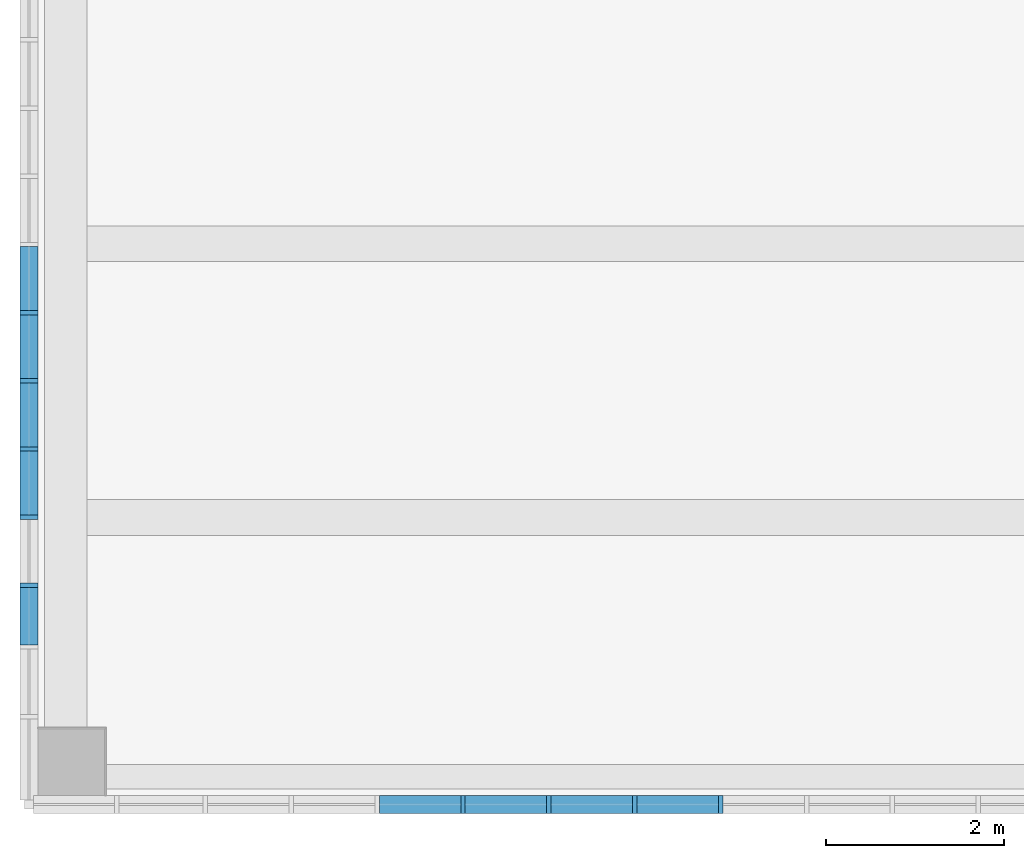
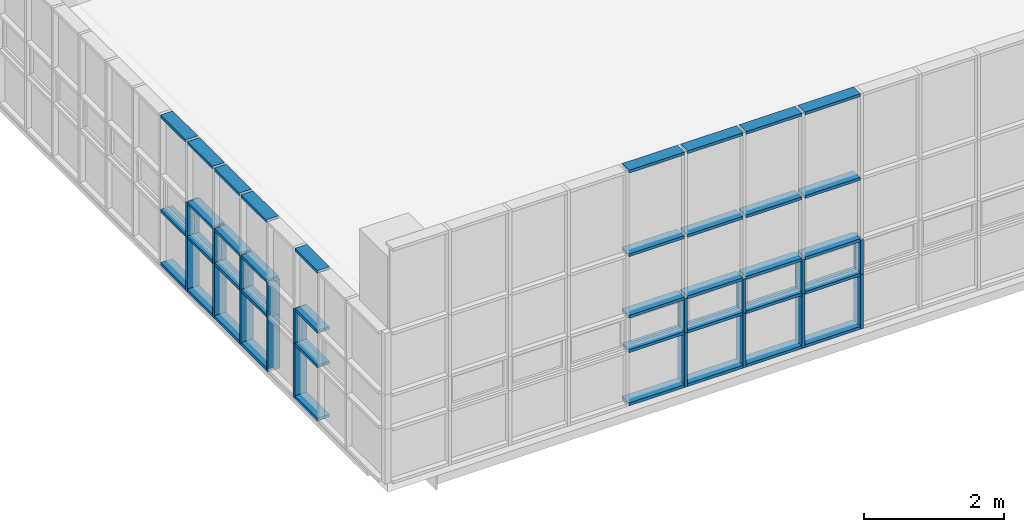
# One storey, part 12 of 76: 57 members, 2 elements without a shape of their own.
"""IFC2X3 building model written with IfcOpenShell, lengths in millimetres."""

import ifcopenshell
import ifcopenshell.guid

model = None  # the IFC model being written
_history = None  # IfcOwnerHistory: only IFC2X3 demands one
_inside = {}  # id of a spatial element -> (the spatial element, [elements in it])
_under = {}  # id of a project, library or spatial element -> (it, [spatial elements below it])
_declared = {}  # id of a project -> (the project, [libraries it declares])
_typed = {}  # id of a type object -> (the type object, [elements of that type])
_made_of = {}  # id of a material, layer set ... -> (it, [elements and type objects made of it])


def new_model(schema):
    """Start an empty IFC model of exactly this schema.

    Asked for "IFC4X3", IfcOpenShell would pick the latest addendum, in which some entities
    have other attributes; the version numbers below select the first issue.
    IFC2X3 requires an IfcOwnerHistory on every rooted entity: one is made here for all.
    """
    global model, _history
    if schema == "IFC4X3":
        model = ifcopenshell.file(schema_version=(4, 3, 0, 0))
    else:
        model = ifcopenshell.file(schema=schema)
    _inside.clear()
    _under.clear()
    _declared.clear()
    _typed.clear()
    _made_of.clear()
    _history = None
    if model.schema == "IFC2X3":
        org = make("IfcOrganization", Name="unknown")
        user = make(
            "IfcPersonAndOrganization",
            ThePerson=make("IfcPerson", FamilyName="unknown"),
            TheOrganization=org,
        )
        app = make(
            "IfcApplication",
            ApplicationDeveloper=org,
            Version="unknown",
            ApplicationFullName="unknown",
            ApplicationIdentifier="unknown",
        )
        _history = make(
            "IfcOwnerHistory",
            OwningUser=user,
            OwningApplication=app,
            ChangeAction="ADDED",
            CreationDate=0,
        )
    return model


def make(cls, **values):
    """One entity of the class cls with the attributes given. An attribute that is None is left unset."""
    return model.create_entity(
        cls, **{name: value for name, value in values.items() if value is not None}
    )


def entity(cls, *values):
    """Any entity or typed value of the class cls, its attributes in the order of the schema. None: left unset."""
    e = model.create_entity(cls)
    for i, value in enumerate(values):
        if value is not None:
            e[i] = value
    return e


def rooted(cls, **values):
    """An entity with a GlobalId (a new one), such as an element, a storey or a relation."""
    return make(cls, GlobalId=ifcopenshell.guid.new(), OwnerHistory=_history, **values)


def si_unit(unit_type, name, prefix=None):
    """IfcSIUnit, for example si_unit("LENGTHUNIT", "METRE", prefix="MILLI")."""
    return make("IfcSIUnit", UnitType=unit_type, Prefix=prefix, Name=name)


def converted_unit(unit_type, name, factor, base, dimensions=None, offset=None):
    """IfcConversionBasedUnit, such as the inch: factor (a typed value) times the base unit."""
    return make(
        "IfcConversionBasedUnit"
        if offset is None
        else "IfcConversionBasedUnitWithOffset",
        ConversionOffset=offset,
        Dimensions=None
        if dimensions is None
        else entity("IfcDimensionalExponents", *dimensions),
        UnitType=unit_type,
        Name=name,
        ConversionFactor=make(
            "IfcMeasureWithUnit", ValueComponent=factor, UnitComponent=base
        ),
    )


def derived_unit(unit_type, elements):
    """IfcDerivedUnit: a product of units, each with its exponent."""
    return make(
        "IfcDerivedUnit",
        Elements=[
            make("IfcDerivedUnitElement", Unit=unit, Exponent=power)
            for unit, power in elements
        ],
        UnitType=unit_type,
    )


def assignment(units):
    """IfcUnitAssignment: the units of a project."""
    return None if units is None else make("IfcUnitAssignment", Units=units)


def point(xyz):
    """IfcCartesianPoint."""
    return None if xyz is None else make("IfcCartesianPoint", Coordinates=xyz)


def direction(xyz):
    """IfcDirection."""
    return None if xyz is None else make("IfcDirection", DirectionRatios=xyz)


def frame(location, z_axis=None, x_axis=None):
    """IfcAxis2Placement3D, a coordinate frame: its origin and axes. An axis left out is left unset."""
    return make(
        "IfcAxis2Placement3D",
        Location=point(location),
        Axis=direction(z_axis),
        RefDirection=direction(x_axis),
    )


def frame_2d(location, x_axis=None):
    """IfcAxis2Placement2D, a coordinate frame in the plane: its origin and x axis."""
    return make(
        "IfcAxis2Placement2D", Location=point(location), RefDirection=direction(x_axis)
    )


def origin():
    """The frame at (0, 0, 0) with its axes left unset."""
    return frame((0.0, 0.0, 0.0))


def origin_2d_with_axis():
    """The frame at (0, 0) in the plane with the x axis (1, 0) written out."""
    return frame_2d((0.0, 0.0), x_axis=(1.0, 0.0))


def place(relative_to, where):
    """IfcLocalPlacement: puts the frame where relative to a parent placement (None: the world)."""
    return make(
        "IfcLocalPlacement", PlacementRelTo=relative_to, RelativePlacement=where
    )


def context(
    kind, dimensions, precision=None, world=None, true_north=None, identifier=None
):
    """IfcGeometricRepresentationContext, for example the 3D "Model" context."""
    return make(
        "IfcGeometricRepresentationContext",
        ContextIdentifier=identifier,
        ContextType=kind,
        CoordinateSpaceDimension=dimensions,
        Precision=precision,
        WorldCoordinateSystem=world,
        TrueNorth=true_north,
    )


def subcontext(parent, identifier, kind, view, scale=None):
    """IfcGeometricRepresentationSubContext, for example "Body" below "Model"."""
    return make(
        "IfcGeometricRepresentationSubContext",
        ContextIdentifier=identifier,
        ContextType=kind,
        ParentContext=parent,
        TargetScale=scale,
        TargetView=view,
    )


def project(units=None, contexts=None):
    """IfcProject with its units and contexts."""
    return rooted(
        "IfcProject",
        Name="project",
        RepresentationContexts=contexts,
        UnitsInContext=assignment(units),
    )


def spatial(cls, under=None, at=None, **own):
    """A site, building, storey or space (cls), placed at a placement, below another one or the project."""
    s = rooted(cls, ObjectPlacement=at, **own)
    if under is not None:
        _under.setdefault(under.id(), (under, []))[1].append(s)
    return s


def profile(cls, at=None, kind="AREA", **sizes):
    """A parametric profile (cls). Its sizes go by their IFC names, for example OverallWidth=200.0."""
    return make(cls, ProfileType=kind, Position=at, **sizes)


def rectangle(**sizes):
    """IfcRectangleProfileDef."""
    return profile("IfcRectangleProfileDef", **sizes)


def extrude(swept, where, along, depth):
    """IfcExtrudedAreaSolid: the profile swept, set in the frame where, extruded along a direction by depth."""
    return make(
        "IfcExtrudedAreaSolid",
        SweptArea=swept,
        Position=where,
        ExtrudedDirection=direction(along),
        Depth=depth,
    )


def shape(context_of_items, identifier, shape_type, items):
    """IfcShapeRepresentation: the items that make up one representation, for example the "Body"."""
    return make(
        "IfcShapeRepresentation",
        ContextOfItems=context_of_items,
        RepresentationIdentifier=identifier,
        RepresentationType=shape_type,
        Items=items,
    )


def source(mapping_origin, context_of_items, identifier, shape_type, items):
    """IfcRepresentationMap: a shape defined once, which mapped items show again and again."""
    return make(
        "IfcRepresentationMap",
        MappingOrigin=mapping_origin,
        MappedRepresentation=shape(context_of_items, identifier, shape_type, items),
    )


def transform(
    local_origin,
    x_axis=None,
    y_axis=None,
    z_axis=None,
    scale=None,
    scale2=None,
    scale3=None,
    uniform=True,
):
    """IfcCartesianTransformationOperator3D, or its non-uniform kind. x_axis, y_axis, z_axis: its Axis1, 2, 3."""
    if uniform:
        return make(
            "IfcCartesianTransformationOperator3D",
            Axis1=direction(x_axis),
            Axis2=direction(y_axis),
            LocalOrigin=point(local_origin),
            Scale=scale,
            Axis3=direction(z_axis),
        )
    return make(
        "IfcCartesianTransformationOperator3DnonUniform",
        Axis1=direction(x_axis),
        Axis2=direction(y_axis),
        LocalOrigin=point(local_origin),
        Scale=scale,
        Axis3=direction(z_axis),
        Scale2=scale2,
        Scale3=scale3,
    )


def mapped(mapping_source, mapping_target):
    """IfcMappedItem: shows the shape of a source again, moved by a transform."""
    return make(
        "IfcMappedItem", MappingSource=mapping_source, MappingTarget=mapping_target
    )


def material(Name=None, Category=None):
    """IfcMaterial."""
    return make("IfcMaterial", Name=Name, Category=Category)


def made_of(thing, what):
    """Note that an element or type object is made of a material, layer set ...; save() writes the relation."""
    if what is not None:
        _made_of.setdefault(what.id(), (what, []))[1].append(thing)
    return thing


def type_object(cls, material=None, **own):
    """A type object (cls), such as IfcWallType, which elements share."""
    return made_of(rooted(cls, **own), material)


def type_shapes(of_type, sources):
    """Give a type object the sources (RepresentationMaps) that its elements show as mapped items."""
    of_type.RepresentationMaps = sources


def element(
    cls,
    number,
    at=None,
    inside=None,
    cuts=None,
    type_object=None,
    material=None,
    context=None,
    identifier="Body",
    shape_type=None,
    held_by="IfcProductDefinitionShape",
    body=None,
    shapes=None,
    **own,
):
    """One element of the class cls, such as IfcWall. Its Tag is "e" and its number.

    at: its placement. inside: the storey or other place that contains it. cuts: it is an
    opening in that element (IfcRelVoidsElement). A single representation is given by context,
    identifier, shape_type and body (its items); several are given by shapes. held_by: the class
    of the entity that holds the representations. save() writes the other relations.
    """
    e = rooted(cls, Tag="e%d" % number, ObjectPlacement=at, **own)
    if body is not None:
        shapes = [shape(context, identifier, shape_type, body)]
    if shapes is not None:
        e.Representation = make(held_by, Representations=shapes)
    if inside is not None:
        _inside.setdefault(inside.id(), (inside, []))[1].append(e)
    if cuts is not None:
        rooted(
            "IfcRelVoidsElement", RelatingBuildingElement=cuts, RelatedOpeningElement=e
        )
    if type_object is not None:
        _typed.setdefault(type_object.id(), (type_object, []))[1].append(e)
    return made_of(e, material)


def aggregate(whole, parts):
    """IfcRelAggregates: a whole, such as a stair, and the parts it consists of."""
    return rooted("IfcRelAggregates", RelatingObject=whole, RelatedObjects=parts)


def save(model, path):
    """Write the relations noted so far, then the file.

    IfcRelAggregates (storeys below a building ...), IfcRelContainedInSpatialStructure (elements
    in a storey), IfcRelDefinesByType, IfcRelAssociatesMaterial and IfcRelDeclares: one each for
    every whole, place, type object, material and project.
    """
    for whole, parts in _under.values():
        aggregate(whole, parts)
    for where, things in _inside.values():
        rooted(
            "IfcRelContainedInSpatialStructure",
            RelatedElements=things,
            RelatingStructure=where,
        )
    for kind, things in _typed.values():
        rooted("IfcRelDefinesByType", RelatedObjects=things, RelatingType=kind)
    for what, things in _made_of.values():
        rooted("IfcRelAssociatesMaterial", RelatedObjects=things, RelatingMaterial=what)
    for by, libraries in _declared.values():
        rooted("IfcRelDeclares", RelatingContext=by, RelatedDefinitions=libraries)
    model.write(path)


model = new_model("IFC2X3")

# Units and contexts
model_context = context("Model", 3, precision=0.01, world=origin(), true_north=direction((6.123031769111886e-17, 1.0)))
body_context = subcontext(model_context, "Body", "Model", "MODEL_VIEW")
ifc_project = project(units=[si_unit("LENGTHUNIT", "METRE", prefix="MILLI"), si_unit("AREAUNIT", "SQUARE_METRE"), si_unit("VOLUMEUNIT", "CUBIC_METRE"), converted_unit("PLANEANGLEUNIT", "DEGREE", entity("IfcRatioMeasure", 0.017453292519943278), si_unit("PLANEANGLEUNIT", "RADIAN"), dimensions=[0, 0, 0, 0, 0, 0, 0]), si_unit("MASSUNIT", "GRAM", prefix="KILO"), derived_unit("MASSDENSITYUNIT", [(si_unit("MASSUNIT", "GRAM", prefix="KILO"), 1), (si_unit("LENGTHUNIT", "METRE"), -3)]), derived_unit("MOMENTOFINERTIAUNIT", [(si_unit("LENGTHUNIT", "METRE"), 4)]), si_unit("TIMEUNIT", "SECOND"), si_unit("FREQUENCYUNIT", "HERTZ"), si_unit("THERMODYNAMICTEMPERATUREUNIT", "DEGREE_CELSIUS"), derived_unit("THERMALTRANSMITTANCEUNIT", [(si_unit("MASSUNIT", "GRAM", prefix="KILO"), 1), (si_unit("THERMODYNAMICTEMPERATUREUNIT", "KELVIN"), -1), (si_unit("TIMEUNIT", "SECOND"), -3)]), derived_unit("VOLUMETRICFLOWRATEUNIT", [(si_unit("LENGTHUNIT", "METRE"), 3), (si_unit("TIMEUNIT", "SECOND"), -1)]), derived_unit("MASSFLOWRATEUNIT", [(si_unit("MASSUNIT", "GRAM", prefix="KILO"), 1), (si_unit("TIMEUNIT", "SECOND"), -1)]), derived_unit("ROTATIONALFREQUENCYUNIT", [(si_unit("TIMEUNIT", "SECOND"), -1)]), si_unit("ELECTRICCURRENTUNIT", "AMPERE"), si_unit("ELECTRICVOLTAGEUNIT", "VOLT"), si_unit("POWERUNIT", "WATT"), si_unit("FORCEUNIT", "NEWTON", prefix="KILO"), si_unit("ILLUMINANCEUNIT", "LUX"), si_unit("LUMINOUSFLUXUNIT", "LUMEN"), si_unit("LUMINOUSINTENSITYUNIT", "CANDELA"), derived_unit("USERDEFINED", [(si_unit("MASSUNIT", "GRAM", prefix="KILO"), -1), (si_unit("LENGTHUNIT", "METRE"), -2), (si_unit("TIMEUNIT", "SECOND"), 3), (si_unit("LUMINOUSFLUXUNIT", "LUMEN"), 1)]), derived_unit("SOUNDPOWERUNIT", [(si_unit("MASSUNIT", "GRAM", prefix="KILO"), 1), (si_unit("LENGTHUNIT", "METRE"), 2), (si_unit("TIMEUNIT", "SECOND"), -3)]), derived_unit("SOUNDPRESSUREUNIT", [(si_unit("MASSUNIT", "GRAM", prefix="KILO"), 1), (si_unit("LENGTHUNIT", "METRE"), -1), (si_unit("TIMEUNIT", "SECOND"), -2)]), derived_unit("LINEARVELOCITYUNIT", [(si_unit("LENGTHUNIT", "METRE"), 1), (si_unit("TIMEUNIT", "SECOND"), -1)]), si_unit("PRESSUREUNIT", "PASCAL"), derived_unit("USERDEFINED", [(si_unit("LENGTHUNIT", "METRE"), -2), (si_unit("MASSUNIT", "GRAM", prefix="KILO"), 1), (si_unit("TIMEUNIT", "SECOND"), -2)]), derived_unit("LINEARFORCEUNIT", [(si_unit("MASSUNIT", "GRAM", prefix="KILO"), 1), (si_unit("LENGTHUNIT", "METRE"), 1), (si_unit("TIMEUNIT", "SECOND"), -2), (si_unit("LENGTHUNIT", "METRE"), -1)]), derived_unit("PLANARFORCEUNIT", [(si_unit("MASSUNIT", "GRAM", prefix="KILO"), 1), (si_unit("LENGTHUNIT", "METRE"), 1), (si_unit("TIMEUNIT", "SECOND"), -2), (si_unit("LENGTHUNIT", "METRE"), -2)])], contexts=[model_context])

# Site, building, storey
site_placement = place(None, frame((-14167.972527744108, -657.2125860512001, 0.0)))
site = spatial("IfcSite", under=ifc_project, at=site_placement, Name="Default", CompositionType="ELEMENT")
building_placement = place(site_placement, origin())
building = spatial("IfcBuilding", under=site, at=building_placement, Name="Sample Building", CompositionType="ELEMENT")
storey_placement = place(building_placement, frame((0.0, 0.0, 9300.0)))
storey = spatial("IfcBuildingStorey", under=building, at=storey_placement, Name="지상 3층", CompositionType="ELEMENT", Elevation=9300.000000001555)

# Curtain wall, members
curtain_wall_type = type_object("IfcCurtainWallType", Name="커튼월:CW112-스테인리스 스틸 커튼월", PredefinedType="NOTDEFINED")
curtain_wall_1_placement = place(storey_placement, frame((0.0, 0.0, -9300.0)))
curtain_wall_1 = element("IfcCurtainWall", 1, at=curtain_wall_1_placement, inside=storey, type_object=curtain_wall_type, Name="커튼월:CW112-스테인리스 스틸 커튼월", ObjectType="커튼월:CW112-스테인리스 스틸 커튼월")
ifc_material = material(Name="<Unnamed>")
member_type_1 = type_object("IfcMemberType", Name="직사각형 멀리언:CW200-직사각형 멀리언 50x200mm", PredefinedType="MULLION", material=ifc_material)
shared_shape_1 = source(origin(), body_context, "Body", "SweptSolid", [
    extrude(rectangle(XDim=200.0, YDim=50.0, at=origin_2d_with_axis()), frame((0.0, 0.0, -600.0), z_axis=(0.0, 0.0, 1.0), x_axis=(0.0, -1.0, 0.0)), (0.0, 0.0, 1.0), 600.0),
])
type_shapes(member_type_1, [shared_shape_1])
member_1_placement = place(curtain_wall_1_placement, frame((14018.587904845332, 3735.8177070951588, 10330.0), z_axis=(0.0, 0.0, -1.0), x_axis=(0.0, -1.0, 0.0)))
member_1 = element("IfcMember", 2, at=member_1_placement, type_object=member_type_1, material=ifc_material, Name="직사각형 멀리언:CW200-직사각형 멀리언 50x200mm", ObjectType="직사각형 멀리언:CW200-직사각형 멀리언 50x200mm", context=body_context, shape_type="MappedRepresentation", body=[
    mapped(shared_shape_1, transform((0.0, 0.0, 0.0), scale=1.0)),
])
member_2_placement = place(curtain_wall_1_placement, frame((14018.587904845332, 2969.8177070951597, 10330.0), z_axis=(0.0, 0.0, -1.0), x_axis=(0.0, -1.0, 0.0)))
member_2 = element("IfcMember", 3, at=member_2_placement, type_object=member_type_1, material=ifc_material, Name="직사각형 멀리언:CW200-직사각형 멀리언 50x200mm", ObjectType="직사각형 멀리언:CW200-직사각형 멀리언 50x200mm", context=body_context, shape_type="MappedRepresentation", body=[
    mapped(shared_shape_1, transform((0.0, 0.0, 0.0), scale=1.0)),
])
member_3_placement = place(curtain_wall_1_placement, frame((14018.587904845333, 4501.817707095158, 10330.0), z_axis=(0.0, 0.0, -1.0), x_axis=(0.0, -1.0, 0.0)))
member_3 = element("IfcMember", 4, at=member_3_placement, type_object=member_type_1, material=ifc_material, Name="직사각형 멀리언:CW200-직사각형 멀리언 50x200mm", ObjectType="직사각형 멀리언:CW200-직사각형 멀리언 50x200mm", context=body_context, shape_type="MappedRepresentation", body=[
    mapped(shared_shape_1, transform((0.0, 0.0, 0.0), scale=1.0)),
])
member_4_placement = place(curtain_wall_1_placement, frame((14018.587904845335, 5267.817707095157, 10330.0), z_axis=(0.0, 0.0, -1.0), x_axis=(0.0, -1.0, 0.0)))
member_4 = element("IfcMember", 5, at=member_4_placement, type_object=member_type_1, material=ifc_material, Name="직사각형 멀리언:CW200-직사각형 멀리언 50x200mm", ObjectType="직사각형 멀리언:CW200-직사각형 멀리언 50x200mm", context=body_context, shape_type="MappedRepresentation", body=[
    mapped(shared_shape_1, transform((0.0, 0.0, 0.0), scale=1.0)),
])
member_5_placement = place(curtain_wall_1_placement, frame((14018.587904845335, 6033.817707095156, 10330.0), z_axis=(0.0, 0.0, -1.0), x_axis=(0.0, -1.0, 0.0)))
member_5 = element("IfcMember", 6, at=member_5_placement, type_object=member_type_1, material=ifc_material, Name="직사각형 멀리언:CW200-직사각형 멀리언 50x200mm", ObjectType="직사각형 멀리언:CW200-직사각형 멀리언 50x200mm", context=body_context, shape_type="MappedRepresentation", body=[
    mapped(shared_shape_1, transform((0.0, 0.0, 0.0), scale=1.0)),
])

curtain_wall_2_placement = place(storey_placement, frame((0.0, 0.0, -9300.0)))
curtain_wall_2 = element("IfcCurtainWall", 7, at=curtain_wall_2_placement, inside=storey, type_object=curtain_wall_type, Name="커튼월:CW112-스테인리스 스틸 커튼월", ObjectType="커튼월:CW112-스테인리스 스틸 커튼월")
member_6_placement = place(curtain_wall_2_placement, frame((18895.156070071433, 507.2122951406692, 10330.0), z_axis=(0.0, 0.0, -1.0), x_axis=(1.0, 0.0, 0.0)))
member_6 = element("IfcMember", 8, at=member_6_placement, type_object=member_type_1, material=ifc_material, Name="직사각형 멀리언:CW200-직사각형 멀리언 50x200mm", ObjectType="직사각형 멀리언:CW200-직사각형 멀리언 50x200mm", context=body_context, shape_type="MappedRepresentation", body=[
    mapped(shared_shape_1, transform((0.0, 0.0, 0.0), scale=1.0)),
])
member_7_placement = place(curtain_wall_2_placement, frame((19860.156070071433, 507.212295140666, 10330.0), z_axis=(0.0, 0.0, -1.0), x_axis=(1.0, 0.0, 0.0)))
member_7 = element("IfcMember", 9, at=member_7_placement, type_object=member_type_1, material=ifc_material, Name="직사각형 멀리언:CW200-직사각형 멀리언 50x200mm", ObjectType="직사각형 멀리언:CW200-직사각형 멀리언 50x200mm", context=body_context, shape_type="MappedRepresentation", body=[
    mapped(shared_shape_1, transform((0.0, 0.0, 0.0), scale=1.0)),
])
member_8_placement = place(curtain_wall_2_placement, frame((20825.156070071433, 507.21229514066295, 10330.0), z_axis=(0.0, 0.0, -1.0), x_axis=(1.0, 0.0, 0.0)))
member_8 = element("IfcMember", 10, at=member_8_placement, type_object=member_type_1, material=ifc_material, Name="직사각형 멀리언:CW200-직사각형 멀리언 50x200mm", ObjectType="직사각형 멀리언:CW200-직사각형 멀리언 50x200mm", context=body_context, shape_type="MappedRepresentation", body=[
    mapped(shared_shape_1, transform((0.0, 0.0, 0.0), scale=1.0)),
])
member_9_placement = place(curtain_wall_2_placement, frame((21790.156070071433, 507.2122951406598, 10330.0), z_axis=(0.0, 0.0, -1.0), x_axis=(1.0, 0.0, 0.0)))
member_9 = element("IfcMember", 11, at=member_9_placement, type_object=member_type_1, material=ifc_material, Name="직사각형 멀리언:CW200-직사각형 멀리언 50x200mm", ObjectType="직사각형 멀리언:CW200-직사각형 멀리언 50x200mm", context=body_context, shape_type="MappedRepresentation", body=[
    mapped(shared_shape_1, transform((0.0, 0.0, 0.0), scale=1.0)),
])

# Member
member_type_2 = type_object("IfcMemberType", Name="직사각형 멀리언:CW200-직사각형 멀리언 50x200mm", PredefinedType="MULLION", material=ifc_material)
shared_shape_2 = source(origin(), body_context, "Body", "SweptSolid", [
    extrude(rectangle(XDim=200.0, YDim=50.0, at=origin_2d_with_axis()), frame((0.0, 0.0, -950.0), z_axis=(0.0, 0.0, 1.0), x_axis=(0.0, -1.0, 0.0)), (0.0, 0.0, 1.0), 949.9999999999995),
])
type_shapes(member_type_2, [shared_shape_2])
member_10_placement = place(curtain_wall_1_placement, frame((14018.587904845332, 3735.817707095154, 9380.0), z_axis=(0.0, 0.0, -1.0), x_axis=(0.0, -1.0, 0.0)))
member_10 = element("IfcMember", 12, at=member_10_placement, type_object=member_type_2, material=ifc_material, Name="직사각형 멀리언:CW200-직사각형 멀리언 50x200mm", ObjectType="직사각형 멀리언:CW200-직사각형 멀리언 50x200mm", context=body_context, shape_type="MappedRepresentation", body=[
    mapped(shared_shape_2, transform((0.0, 0.0, 0.0), scale=1.0)),
])

member_11_placement = place(curtain_wall_1_placement, frame((14018.587904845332, 2969.8177070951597, 9380.0), z_axis=(0.0, 0.0, -1.0), x_axis=(0.0, -1.0, 0.0)))
member_11 = element("IfcMember", 13, at=member_11_placement, type_object=member_type_2, material=ifc_material, Name="직사각형 멀리언:CW200-직사각형 멀리언 50x200mm", ObjectType="직사각형 멀리언:CW200-직사각형 멀리언 50x200mm", context=body_context, shape_type="MappedRepresentation", body=[
    mapped(shared_shape_2, transform((0.0, 0.0, 0.0), scale=1.0)),
])

member_12_placement = place(curtain_wall_1_placement, frame((14018.587904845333, 4501.817707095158, 9380.0), z_axis=(0.0, 0.0, -1.0), x_axis=(0.0, -1.0, 0.0)))
member_12 = element("IfcMember", 14, at=member_12_placement, type_object=member_type_2, material=ifc_material, Name="직사각형 멀리언:CW200-직사각형 멀리언 50x200mm", ObjectType="직사각형 멀리언:CW200-직사각형 멀리언 50x200mm", context=body_context, shape_type="MappedRepresentation", body=[
    mapped(shared_shape_2, transform((0.0, 0.0, 0.0), scale=1.0)),
])

member_13_placement = place(curtain_wall_1_placement, frame((14018.587904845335, 5267.817707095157, 9380.0), z_axis=(0.0, 0.0, -1.0), x_axis=(0.0, -1.0, 0.0)))
member_13 = element("IfcMember", 15, at=member_13_placement, type_object=member_type_2, material=ifc_material, Name="직사각형 멀리언:CW200-직사각형 멀리언 50x200mm", ObjectType="직사각형 멀리언:CW200-직사각형 멀리언 50x200mm", context=body_context, shape_type="MappedRepresentation", body=[
    mapped(shared_shape_2, transform((0.0, 0.0, 0.0), scale=1.0)),
])

member_14_placement = place(curtain_wall_1_placement, frame((14018.587904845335, 6033.817707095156, 9380.0), z_axis=(0.0, 0.0, -1.0), x_axis=(0.0, -1.0, 0.0)))
member_14 = element("IfcMember", 16, at=member_14_placement, type_object=member_type_2, material=ifc_material, Name="직사각형 멀리언:CW200-직사각형 멀리언 50x200mm", ObjectType="직사각형 멀리언:CW200-직사각형 멀리언 50x200mm", context=body_context, shape_type="MappedRepresentation", body=[
    mapped(shared_shape_2, transform((0.0, 0.0, 0.0), scale=1.0)),
])

member_15_placement = place(curtain_wall_2_placement, frame((18895.156070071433, 507.2122951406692, 9380.0), z_axis=(0.0, 0.0, -1.0), x_axis=(1.0, 0.0, 0.0)))
member_15 = element("IfcMember", 17, at=member_15_placement, type_object=member_type_2, material=ifc_material, Name="직사각형 멀리언:CW200-직사각형 멀리언 50x200mm", ObjectType="직사각형 멀리언:CW200-직사각형 멀리언 50x200mm", context=body_context, shape_type="MappedRepresentation", body=[
    mapped(shared_shape_2, transform((0.0, 0.0, 0.0), scale=1.0)),
])

member_16_placement = place(curtain_wall_2_placement, frame((19860.156070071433, 507.212295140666, 9380.0), z_axis=(0.0, 0.0, -1.0), x_axis=(1.0, 0.0, 0.0)))
member_16 = element("IfcMember", 18, at=member_16_placement, type_object=member_type_2, material=ifc_material, Name="직사각형 멀리언:CW200-직사각형 멀리언 50x200mm", ObjectType="직사각형 멀리언:CW200-직사각형 멀리언 50x200mm", context=body_context, shape_type="MappedRepresentation", body=[
    mapped(shared_shape_2, transform((0.0, 0.0, 0.0), scale=1.0)),
])

member_17_placement = place(curtain_wall_2_placement, frame((20825.156070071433, 507.21229514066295, 9380.0), z_axis=(0.0, 0.0, -1.0), x_axis=(1.0, 0.0, 0.0)))
member_17 = element("IfcMember", 19, at=member_17_placement, type_object=member_type_2, material=ifc_material, Name="직사각형 멀리언:CW200-직사각형 멀리언 50x200mm", ObjectType="직사각형 멀리언:CW200-직사각형 멀리언 50x200mm", context=body_context, shape_type="MappedRepresentation", body=[
    mapped(shared_shape_2, transform((0.0, 0.0, 0.0), scale=1.0)),
])

member_18_placement = place(curtain_wall_2_placement, frame((21790.156070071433, 507.2122951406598, 9380.0), z_axis=(0.0, 0.0, -1.0), x_axis=(1.0, 0.0, 0.0)))
member_18 = element("IfcMember", 20, at=member_18_placement, type_object=member_type_2, material=ifc_material, Name="직사각형 멀리언:CW200-직사각형 멀리언 50x200mm", ObjectType="직사각형 멀리언:CW200-직사각형 멀리언 50x200mm", context=body_context, shape_type="MappedRepresentation", body=[
    mapped(shared_shape_2, transform((0.0, 0.0, 0.0), scale=1.0)),
])

member_type_3 = type_object("IfcMemberType", Name="직사각형 멀리언:CW200-직사각형 멀리언 50x200mm", PredefinedType="MULLION", material=ifc_material)
shared_shape_3 = source(origin(), body_context, "Body", "SweptSolid", [
    extrude(rectangle(XDim=200.0, YDim=50.0, at=origin_2d_with_axis()), frame((-25.0, 0.0, -716.0), z_axis=(0.0, 0.0, 1.0), x_axis=(0.0, -1.0, 0.0)), (0.0, 0.0, 1.0), 715.9999999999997),
])
type_shapes(member_type_3, [shared_shape_3])
member_19_placement = place(curtain_wall_1_placement, frame((14018.587904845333, 4476.817707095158, 9380.0), z_axis=(0.0, 1.0, 0.0), x_axis=(0.0, 0.0, -1.0)))
member_19 = element("IfcMember", 21, at=member_19_placement, type_object=member_type_3, material=ifc_material, Name="직사각형 멀리언:CW200-직사각형 멀리언 50x200mm", ObjectType="직사각형 멀리언:CW200-직사각형 멀리언 50x200mm", context=body_context, shape_type="MappedRepresentation", body=[
    mapped(shared_shape_3, transform((0.0, 0.0, 0.0), scale=1.0)),
])

member_20_placement = place(curtain_wall_1_placement, frame((14018.587904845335, 5242.817707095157, 9380.0), z_axis=(0.0, 1.0, 0.0), x_axis=(0.0, 0.0, -1.0)))
member_20 = element("IfcMember", 22, at=member_20_placement, type_object=member_type_3, material=ifc_material, Name="직사각형 멀리언:CW200-직사각형 멀리언 50x200mm", ObjectType="직사각형 멀리언:CW200-직사각형 멀리언 50x200mm", context=body_context, shape_type="MappedRepresentation", body=[
    mapped(shared_shape_3, transform((0.0, 0.0, 0.0), scale=1.0)),
])

member_21_placement = place(curtain_wall_1_placement, frame((14018.587904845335, 6008.817707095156, 9380.0), z_axis=(0.0, 1.0, 0.0), x_axis=(0.0, 0.0, -1.0)))
member_21 = element("IfcMember", 23, at=member_21_placement, type_object=member_type_3, material=ifc_material, Name="직사각형 멀리언:CW200-직사각형 멀리언 50x200mm", ObjectType="직사각형 멀리언:CW200-직사각형 멀리언 50x200mm", context=body_context, shape_type="MappedRepresentation", body=[
    mapped(shared_shape_3, transform((0.0, 0.0, 0.0), scale=1.0)),
])

member_22_placement = place(curtain_wall_1_placement, frame((14018.587904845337, 6774.817707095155, 9380.0), z_axis=(0.0, 1.0, 0.0), x_axis=(0.0, 0.0, -1.0)))
member_22 = element("IfcMember", 24, at=member_22_placement, type_object=member_type_3, material=ifc_material, Name="직사각형 멀리언:CW200-직사각형 멀리언 50x200mm", ObjectType="직사각형 멀리언:CW200-직사각형 멀리언 50x200mm", context=body_context, shape_type="MappedRepresentation", body=[
    mapped(shared_shape_3, transform((0.0, 0.0, 0.0), scale=1.0)),
])

member_type_4 = type_object("IfcMemberType", Name="직사각형 멀리언:CW200-직사각형 멀리언 50x200mm", PredefinedType="MULLION", material=ifc_material)
shared_shape_4 = source(origin(), body_context, "Body", "SweptSolid", [
    extrude(rectangle(XDim=200.0, YDim=50.0, at=origin_2d_with_axis()), frame((0.0, 0.0, -716.0), z_axis=(0.0, 0.0, 1.0), x_axis=(0.0, -1.0, 0.0)), (0.0, 0.0, 1.0), 715.9999999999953),
])
type_shapes(member_type_4, [shared_shape_4])
member_23_placement = place(curtain_wall_1_placement, frame((14018.587904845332, 3760.8177070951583, 10330.0), z_axis=(0.0, -1.0, 0.0), x_axis=(0.0, 0.0, 1.0)))
member_23 = element("IfcMember", 25, at=member_23_placement, type_object=member_type_4, material=ifc_material, Name="직사각형 멀리언:CW200-직사각형 멀리언 50x200mm", ObjectType="직사각형 멀리언:CW200-직사각형 멀리언 50x200mm", context=body_context, shape_type="MappedRepresentation", body=[
    mapped(shared_shape_4, transform((0.0, 0.0, 0.0), scale=1.0)),
])

member_24_placement = place(curtain_wall_1_placement, frame((14018.587904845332, 3760.8177070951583, 10930.0), z_axis=(0.0, -1.0, 0.0), x_axis=(0.0, 0.0, 1.0)))
member_24 = element("IfcMember", 26, at=member_24_placement, type_object=member_type_4, material=ifc_material, Name="직사각형 멀리언:CW200-직사각형 멀리언 50x200mm", ObjectType="직사각형 멀리언:CW200-직사각형 멀리언 50x200mm", context=body_context, shape_type="MappedRepresentation", body=[
    mapped(shared_shape_4, transform((0.0, 0.0, 0.0), scale=1.0)),
])

member_25_placement = place(curtain_wall_1_placement, frame((14018.587904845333, 4526.817707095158, 10330.0), z_axis=(0.0, -1.0, 0.0), x_axis=(0.0, 0.0, 1.0)))
member_25 = element("IfcMember", 27, at=member_25_placement, type_object=member_type_4, material=ifc_material, Name="직사각형 멀리언:CW200-직사각형 멀리언 50x200mm", ObjectType="직사각형 멀리언:CW200-직사각형 멀리언 50x200mm", context=body_context, shape_type="MappedRepresentation", body=[
    mapped(shared_shape_4, transform((0.0, 0.0, 0.0), scale=1.0)),
])

member_26_placement = place(curtain_wall_1_placement, frame((14018.587904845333, 4526.817707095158, 10930.0), z_axis=(0.0, -1.0, 0.0), x_axis=(0.0, 0.0, 1.0)))
member_26 = element("IfcMember", 28, at=member_26_placement, type_object=member_type_4, material=ifc_material, Name="직사각형 멀리언:CW200-직사각형 멀리언 50x200mm", ObjectType="직사각형 멀리언:CW200-직사각형 멀리언 50x200mm", context=body_context, shape_type="MappedRepresentation", body=[
    mapped(shared_shape_4, transform((0.0, 0.0, 0.0), scale=1.0)),
])

member_27_placement = place(curtain_wall_1_placement, frame((14018.587904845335, 5292.817707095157, 10330.0), z_axis=(0.0, -1.0, 0.0), x_axis=(0.0, 0.0, 1.0)))
member_27 = element("IfcMember", 29, at=member_27_placement, type_object=member_type_4, material=ifc_material, Name="직사각형 멀리언:CW200-직사각형 멀리언 50x200mm", ObjectType="직사각형 멀리언:CW200-직사각형 멀리언 50x200mm", context=body_context, shape_type="MappedRepresentation", body=[
    mapped(shared_shape_4, transform((0.0, 0.0, 0.0), scale=1.0)),
])

member_28_placement = place(curtain_wall_1_placement, frame((14018.587904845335, 5292.817707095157, 10930.0), z_axis=(0.0, -1.0, 0.0), x_axis=(0.0, 0.0, 1.0)))
member_28 = element("IfcMember", 30, at=member_28_placement, type_object=member_type_4, material=ifc_material, Name="직사각형 멀리언:CW200-직사각형 멀리언 50x200mm", ObjectType="직사각형 멀리언:CW200-직사각형 멀리언 50x200mm", context=body_context, shape_type="MappedRepresentation", body=[
    mapped(shared_shape_4, transform((0.0, 0.0, 0.0), scale=1.0)),
])

member_29_placement = place(curtain_wall_1_placement, frame((14018.587904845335, 6058.817707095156, 10330.0), z_axis=(0.0, -1.0, 0.0), x_axis=(0.0, 0.0, 1.0)))
member_29 = element("IfcMember", 31, at=member_29_placement, type_object=member_type_4, material=ifc_material, Name="직사각형 멀리언:CW200-직사각형 멀리언 50x200mm", ObjectType="직사각형 멀리언:CW200-직사각형 멀리언 50x200mm", context=body_context, shape_type="MappedRepresentation", body=[
    mapped(shared_shape_4, transform((0.0, 0.0, 0.0), scale=1.0)),
])

member_type_5 = type_object("IfcMemberType", Name="직사각형 멀리언:CW200-직사각형 멀리언 50x200mm", PredefinedType="MULLION", material=ifc_material)
shared_shape_5 = source(origin(), body_context, "Body", "SweptSolid", [
    extrude(rectangle(XDim=200.0, YDim=50.0, at=origin_2d_with_axis()), frame((-25.0, 0.0, -716.0), z_axis=(0.0, 0.0, 1.0), x_axis=(0.0, -1.0, 0.0)), (0.0, 0.0, 1.0), 715.9999999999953),
])
type_shapes(member_type_5, [shared_shape_5])
member_30_placement = place(curtain_wall_1_placement, frame((14018.587904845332, 3760.8177070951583, 12000.0), z_axis=(0.0, -1.0, 0.0), x_axis=(0.0, 0.0, 1.0)))
member_30 = element("IfcMember", 32, at=member_30_placement, type_object=member_type_5, material=ifc_material, Name="직사각형 멀리언:CW200-직사각형 멀리언 50x200mm", ObjectType="직사각형 멀리언:CW200-직사각형 멀리언 50x200mm", context=body_context, shape_type="MappedRepresentation", body=[
    mapped(shared_shape_5, transform((0.0, 0.0, 0.0), scale=1.0)),
])

member_31_placement = place(curtain_wall_1_placement, frame((14018.587904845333, 4526.817707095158, 12000.0), z_axis=(0.0, -1.0, 0.0), x_axis=(0.0, 0.0, 1.0)))
member_31 = element("IfcMember", 33, at=member_31_placement, type_object=member_type_5, material=ifc_material, Name="직사각형 멀리언:CW200-직사각형 멀리언 50x200mm", ObjectType="직사각형 멀리언:CW200-직사각형 멀리언 50x200mm", context=body_context, shape_type="MappedRepresentation", body=[
    mapped(shared_shape_5, transform((0.0, 0.0, 0.0), scale=1.0)),
])

member_32_placement = place(curtain_wall_1_placement, frame((14018.587904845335, 5292.817707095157, 12000.0), z_axis=(0.0, -1.0, 0.0), x_axis=(0.0, 0.0, 1.0)))
member_32 = element("IfcMember", 34, at=member_32_placement, type_object=member_type_5, material=ifc_material, Name="직사각형 멀리언:CW200-직사각형 멀리언 50x200mm", ObjectType="직사각형 멀리언:CW200-직사각형 멀리언 50x200mm", context=body_context, shape_type="MappedRepresentation", body=[
    mapped(shared_shape_5, transform((0.0, 0.0, 0.0), scale=1.0)),
])

member_33_placement = place(curtain_wall_1_placement, frame((14018.587904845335, 6058.817707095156, 12000.0), z_axis=(0.0, -1.0, 0.0), x_axis=(0.0, 0.0, 1.0)))
member_33 = element("IfcMember", 35, at=member_33_placement, type_object=member_type_5, material=ifc_material, Name="직사각형 멀리언:CW200-직사각형 멀리언 50x200mm", ObjectType="직사각형 멀리언:CW200-직사각형 멀리언 50x200mm", context=body_context, shape_type="MappedRepresentation", body=[
    mapped(shared_shape_5, transform((0.0, 0.0, 0.0), scale=1.0)),
])

member_type_6 = type_object("IfcMemberType", Name="직사각형 멀리언:CW200-직사각형 멀리언 50x200mm", PredefinedType="MULLION", material=ifc_material)
shared_shape_6 = source(origin(), body_context, "Body", "SweptSolid", [
    extrude(rectangle(XDim=200.0, YDim=50.0, at=origin_2d_with_axis()), frame((-25.0, 0.0, -642.0), z_axis=(0.0, 0.0, 1.0), x_axis=(0.0, -1.0, 0.0)), (0.0, 0.0, 1.0), 641.9999999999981),
])
type_shapes(member_type_6, [shared_shape_6])
member_34_placement = place(curtain_wall_1_placement, frame((14018.587904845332, 2944.8177070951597, 9380.0), z_axis=(0.0, 1.0, 0.0), x_axis=(0.0, 0.0, -1.0)))
member_34 = element("IfcMember", 36, at=member_34_placement, type_object=member_type_6, material=ifc_material, Name="직사각형 멀리언:CW200-직사각형 멀리언 50x200mm", ObjectType="직사각형 멀리언:CW200-직사각형 멀리언 50x200mm", context=body_context, shape_type="MappedRepresentation", body=[
    mapped(shared_shape_6, transform((0.0, 0.0, 0.0), scale=1.0)),
])

member_type_7 = type_object("IfcMemberType", Name="직사각형 멀리언:CW200-직사각형 멀리언 50x200mm", PredefinedType="MULLION", material=ifc_material)
shared_shape_7 = source(origin(), body_context, "Body", "SweptSolid", [
    extrude(rectangle(XDim=200.0, YDim=50.0, at=origin_2d_with_axis()), frame((0.0, 0.0, -642.0), z_axis=(0.0, 0.0, 1.0), x_axis=(0.0, -1.0, 0.0)), (0.0, 0.0, 1.0), 641.9999999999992),
])
type_shapes(member_type_7, [shared_shape_7])
member_35_placement = place(curtain_wall_1_placement, frame((14018.587904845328, 2302.817707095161, 10330.0), z_axis=(0.0, -1.0, 0.0), x_axis=(0.0, 0.0, 1.0)))
member_35 = element("IfcMember", 37, at=member_35_placement, type_object=member_type_7, material=ifc_material, Name="직사각형 멀리언:CW200-직사각형 멀리언 50x200mm", ObjectType="직사각형 멀리언:CW200-직사각형 멀리언 50x200mm", context=body_context, shape_type="MappedRepresentation", body=[
    mapped(shared_shape_7, transform((0.0, 0.0, 0.0), scale=1.0)),
])

member_36_placement = place(curtain_wall_1_placement, frame((14018.587904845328, 2302.817707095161, 10930.0), z_axis=(0.0, -1.0, 0.0), x_axis=(0.0, 0.0, 1.0)))
member_36 = element("IfcMember", 38, at=member_36_placement, type_object=member_type_7, material=ifc_material, Name="직사각형 멀리언:CW200-직사각형 멀리언 50x200mm", ObjectType="직사각형 멀리언:CW200-직사각형 멀리언 50x200mm", context=body_context, shape_type="MappedRepresentation", body=[
    mapped(shared_shape_7, transform((0.0, 0.0, 0.0), scale=1.0)),
])

member_type_8 = type_object("IfcMemberType", Name="직사각형 멀리언:CW200-직사각형 멀리언 50x200mm", PredefinedType="MULLION", material=ifc_material)
shared_shape_8 = source(origin(), body_context, "Body", "SweptSolid", [
    extrude(rectangle(XDim=200.0, YDim=50.0, at=origin_2d_with_axis()), frame((-25.0, 0.0, -642.0), z_axis=(0.0, 0.0, 1.0), x_axis=(0.0, -1.0, 0.0)), (0.0, 0.0, 1.0), 641.9999999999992),
])
type_shapes(member_type_8, [shared_shape_8])
member_37_placement = place(curtain_wall_1_placement, frame((14018.587904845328, 2302.817707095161, 12000.0), z_axis=(0.0, -1.0, 0.0), x_axis=(0.0, 0.0, 1.0)))
member_37 = element("IfcMember", 39, at=member_37_placement, type_object=member_type_8, material=ifc_material, Name="직사각형 멀리언:CW200-직사각형 멀리언 50x200mm", ObjectType="직사각형 멀리언:CW200-직사각형 멀리언 50x200mm", context=body_context, shape_type="MappedRepresentation", body=[
    mapped(shared_shape_8, transform((0.0, 0.0, 0.0), scale=1.0)),
])

aggregate(curtain_wall_1, [member_30, member_10, member_1, member_34, member_35, member_36, member_11, member_2, member_37, member_19, member_23, member_24, member_31, member_12, member_3, member_20, member_25, member_26, member_32, member_13, member_4, member_21, member_27, member_28, member_33, member_14, member_5, member_22, member_29])

member_type_9 = type_object("IfcMemberType", Name="직사각형 멀리언:CW200-직사각형 멀리언 50x200mm", PredefinedType="MULLION", material=ifc_material)
shared_shape_9 = source(origin(), body_context, "Body", "SweptSolid", [
    extrude(rectangle(XDim=200.0, YDim=50.0, at=origin_2d_with_axis()), frame((-25.0, 0.0, -915.0), z_axis=(0.0, 0.0, 1.0), x_axis=(0.0, -1.0, 0.0)), (0.0, 0.0, 1.0), 914.9999999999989),
])
type_shapes(member_type_9, [shared_shape_9])
member_38_placement = place(curtain_wall_2_placement, frame((17955.156070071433, 507.21229514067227, 9380.0), z_axis=(-1.0, 0.0, 0.0), x_axis=(0.0, 0.0, -1.0)))
member_38 = element("IfcMember", 40, at=member_38_placement, type_object=member_type_9, material=ifc_material, Name="직사각형 멀리언:CW200-직사각형 멀리언 50x200mm", ObjectType="직사각형 멀리언:CW200-직사각형 멀리언 50x200mm", context=body_context, shape_type="MappedRepresentation", body=[
    mapped(shared_shape_9, transform((0.0, 0.0, 0.0), scale=1.0)),
])

member_39_placement = place(curtain_wall_2_placement, frame((18920.156070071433, 507.21229514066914, 9380.0), z_axis=(-1.0, 0.0, 0.0), x_axis=(0.0, 0.0, -1.0)))
member_39 = element("IfcMember", 41, at=member_39_placement, type_object=member_type_9, material=ifc_material, Name="직사각형 멀리언:CW200-직사각형 멀리언 50x200mm", ObjectType="직사각형 멀리언:CW200-직사각형 멀리언 50x200mm", context=body_context, shape_type="MappedRepresentation", body=[
    mapped(shared_shape_9, transform((0.0, 0.0, 0.0), scale=1.0)),
])

member_40_placement = place(curtain_wall_2_placement, frame((19885.15607007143, 507.21229514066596, 9380.0), z_axis=(-1.0, 0.0, 0.0), x_axis=(0.0, 0.0, -1.0)))
member_40 = element("IfcMember", 42, at=member_40_placement, type_object=member_type_9, material=ifc_material, Name="직사각형 멀리언:CW200-직사각형 멀리언 50x200mm", ObjectType="직사각형 멀리언:CW200-직사각형 멀리언 50x200mm", context=body_context, shape_type="MappedRepresentation", body=[
    mapped(shared_shape_9, transform((0.0, 0.0, 0.0), scale=1.0)),
])

member_41_placement = place(curtain_wall_2_placement, frame((20850.156070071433, 507.21229514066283, 9380.0), z_axis=(-1.0, 0.0, 0.0), x_axis=(0.0, 0.0, -1.0)))
member_41 = element("IfcMember", 43, at=member_41_placement, type_object=member_type_9, material=ifc_material, Name="직사각형 멀리언:CW200-직사각형 멀리언 50x200mm", ObjectType="직사각형 멀리언:CW200-직사각형 멀리언 50x200mm", context=body_context, shape_type="MappedRepresentation", body=[
    mapped(shared_shape_9, transform((0.0, 0.0, 0.0), scale=1.0)),
])

member_type_10 = type_object("IfcMemberType", Name="직사각형 멀리언:CW200-직사각형 멀리언 50x200mm", PredefinedType="MULLION", material=ifc_material)
shared_shape_10 = source(origin(), body_context, "Body", "SweptSolid", [
    extrude(rectangle(XDim=200.0, YDim=50.0, at=origin_2d_with_axis()), frame((0.0, 0.0, -915.0), z_axis=(0.0, 0.0, 1.0), x_axis=(0.0, -1.0, 0.0)), (0.0, 0.0, 1.0), 915.000000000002),
])
type_shapes(member_type_10, [shared_shape_10])
member_42_placement = place(curtain_wall_2_placement, frame((18870.156070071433, 507.2122951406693, 10330.0), z_axis=(1.0, 0.0, 0.0), x_axis=(0.0, 0.0, 1.0)))
member_42 = element("IfcMember", 44, at=member_42_placement, type_object=member_type_10, material=ifc_material, Name="직사각형 멀리언:CW200-직사각형 멀리언 50x200mm", ObjectType="직사각형 멀리언:CW200-직사각형 멀리언 50x200mm", context=body_context, shape_type="MappedRepresentation", body=[
    mapped(shared_shape_10, transform((0.0, 0.0, 0.0), scale=1.0)),
])

member_43_placement = place(curtain_wall_2_placement, frame((18870.156070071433, 507.2122951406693, 10930.0), z_axis=(1.0, 0.0, 0.0), x_axis=(0.0, 0.0, 1.0)))
member_43 = element("IfcMember", 45, at=member_43_placement, type_object=member_type_10, material=ifc_material, Name="직사각형 멀리언:CW200-직사각형 멀리언 50x200mm", ObjectType="직사각형 멀리언:CW200-직사각형 멀리언 50x200mm", context=body_context, shape_type="MappedRepresentation", body=[
    mapped(shared_shape_10, transform((0.0, 0.0, 0.0), scale=1.0)),
])

member_44_placement = place(curtain_wall_2_placement, frame((18870.156070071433, 507.2122951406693, 12000.0), z_axis=(1.0, 0.0, 0.0), x_axis=(0.0, 0.0, 1.0)))
member_44 = element("IfcMember", 46, at=member_44_placement, type_object=member_type_10, material=ifc_material, Name="직사각형 멀리언:CW200-직사각형 멀리언 50x200mm", ObjectType="직사각형 멀리언:CW200-직사각형 멀리언 50x200mm", context=body_context, shape_type="MappedRepresentation", body=[
    mapped(shared_shape_10, transform((0.0, 0.0, 0.0), scale=1.0)),
])

member_45_placement = place(curtain_wall_2_placement, frame((19835.156070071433, 507.21229514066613, 10330.0), z_axis=(1.0, 0.0, 0.0), x_axis=(0.0, 0.0, 1.0)))
member_45 = element("IfcMember", 47, at=member_45_placement, type_object=member_type_10, material=ifc_material, Name="직사각형 멀리언:CW200-직사각형 멀리언 50x200mm", ObjectType="직사각형 멀리언:CW200-직사각형 멀리언 50x200mm", context=body_context, shape_type="MappedRepresentation", body=[
    mapped(shared_shape_10, transform((0.0, 0.0, 0.0), scale=1.0)),
])

member_46_placement = place(curtain_wall_2_placement, frame((19835.156070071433, 507.21229514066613, 10930.0), z_axis=(1.0, 0.0, 0.0), x_axis=(0.0, 0.0, 1.0)))
member_46 = element("IfcMember", 48, at=member_46_placement, type_object=member_type_10, material=ifc_material, Name="직사각형 멀리언:CW200-직사각형 멀리언 50x200mm", ObjectType="직사각형 멀리언:CW200-직사각형 멀리언 50x200mm", context=body_context, shape_type="MappedRepresentation", body=[
    mapped(shared_shape_10, transform((0.0, 0.0, 0.0), scale=1.0)),
])

member_47_placement = place(curtain_wall_2_placement, frame((19835.156070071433, 507.21229514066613, 12000.0), z_axis=(1.0, 0.0, 0.0), x_axis=(0.0, 0.0, 1.0)))
member_47 = element("IfcMember", 49, at=member_47_placement, type_object=member_type_10, material=ifc_material, Name="직사각형 멀리언:CW200-직사각형 멀리언 50x200mm", ObjectType="직사각형 멀리언:CW200-직사각형 멀리언 50x200mm", context=body_context, shape_type="MappedRepresentation", body=[
    mapped(shared_shape_10, transform((0.0, 0.0, 0.0), scale=1.0)),
])

member_48_placement = place(curtain_wall_2_placement, frame((20800.156070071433, 507.212295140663, 10330.0), z_axis=(1.0, 0.0, 0.0), x_axis=(0.0, 0.0, 1.0)))
member_48 = element("IfcMember", 50, at=member_48_placement, type_object=member_type_10, material=ifc_material, Name="직사각형 멀리언:CW200-직사각형 멀리언 50x200mm", ObjectType="직사각형 멀리언:CW200-직사각형 멀리언 50x200mm", context=body_context, shape_type="MappedRepresentation", body=[
    mapped(shared_shape_10, transform((0.0, 0.0, 0.0), scale=1.0)),
])

member_49_placement = place(curtain_wall_2_placement, frame((20800.156070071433, 507.212295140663, 10930.0), z_axis=(1.0, 0.0, 0.0), x_axis=(0.0, 0.0, 1.0)))
member_49 = element("IfcMember", 51, at=member_49_placement, type_object=member_type_10, material=ifc_material, Name="직사각형 멀리언:CW200-직사각형 멀리언 50x200mm", ObjectType="직사각형 멀리언:CW200-직사각형 멀리언 50x200mm", context=body_context, shape_type="MappedRepresentation", body=[
    mapped(shared_shape_10, transform((0.0, 0.0, 0.0), scale=1.0)),
])

member_50_placement = place(curtain_wall_2_placement, frame((20800.156070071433, 507.212295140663, 12000.0), z_axis=(1.0, 0.0, 0.0), x_axis=(0.0, 0.0, 1.0)))
member_50 = element("IfcMember", 52, at=member_50_placement, type_object=member_type_10, material=ifc_material, Name="직사각형 멀리언:CW200-직사각형 멀리언 50x200mm", ObjectType="직사각형 멀리언:CW200-직사각형 멀리언 50x200mm", context=body_context, shape_type="MappedRepresentation", body=[
    mapped(shared_shape_10, transform((0.0, 0.0, 0.0), scale=1.0)),
])

member_51_placement = place(curtain_wall_2_placement, frame((21765.156070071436, 507.2122951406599, 10330.0), z_axis=(1.0, 0.0, 0.0), x_axis=(0.0, 0.0, 1.0)))
member_51 = element("IfcMember", 53, at=member_51_placement, type_object=member_type_10, material=ifc_material, Name="직사각형 멀리언:CW200-직사각형 멀리언 50x200mm", ObjectType="직사각형 멀리언:CW200-직사각형 멀리언 50x200mm", context=body_context, shape_type="MappedRepresentation", body=[
    mapped(shared_shape_10, transform((0.0, 0.0, 0.0), scale=1.0)),
])

member_52_placement = place(curtain_wall_2_placement, frame((21765.156070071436, 507.2122951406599, 10930.0), z_axis=(1.0, 0.0, 0.0), x_axis=(0.0, 0.0, 1.0)))
member_52 = element("IfcMember", 54, at=member_52_placement, type_object=member_type_10, material=ifc_material, Name="직사각형 멀리언:CW200-직사각형 멀리언 50x200mm", ObjectType="직사각형 멀리언:CW200-직사각형 멀리언 50x200mm", context=body_context, shape_type="MappedRepresentation", body=[
    mapped(shared_shape_10, transform((0.0, 0.0, 0.0), scale=1.0)),
])

member_53_placement = place(curtain_wall_2_placement, frame((21765.156070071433, 507.2122951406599, 12000.0), z_axis=(1.0, 0.0, 0.0), x_axis=(0.0, 0.0, 1.0)))
member_53 = element("IfcMember", 55, at=member_53_placement, type_object=member_type_10, material=ifc_material, Name="직사각형 멀리언:CW200-직사각형 멀리언 50x200mm", ObjectType="직사각형 멀리언:CW200-직사각형 멀리언 50x200mm", context=body_context, shape_type="MappedRepresentation", body=[
    mapped(shared_shape_10, transform((0.0, 0.0, 0.0), scale=1.0)),
])

member_type_11 = type_object("IfcMemberType", Name="직사각형 멀리언:CW200-직사각형 멀리언 50x200mm", PredefinedType="MULLION", material=ifc_material)
shared_shape_11 = source(origin(), body_context, "Body", "SweptSolid", [
    extrude(rectangle(XDim=200.0, YDim=50.0, at=origin_2d_with_axis()), frame((-25.0, 0.0, -915.0), z_axis=(0.0, 0.0, 1.0), x_axis=(0.0, -1.0, 0.0)), (0.0, 0.0, 1.0), 914.9999999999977),
])
type_shapes(member_type_11, [shared_shape_11])
member_54_placement = place(curtain_wall_2_placement, frame((18870.15607007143, 507.2122951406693, 13480.0), z_axis=(1.0, 0.0, 0.0), x_axis=(0.0, 0.0, 1.0)))
member_54 = element("IfcMember", 56, at=member_54_placement, type_object=member_type_11, material=ifc_material, Name="직사각형 멀리언:CW200-직사각형 멀리언 50x200mm", ObjectType="직사각형 멀리언:CW200-직사각형 멀리언 50x200mm", context=body_context, shape_type="MappedRepresentation", body=[
    mapped(shared_shape_11, transform((0.0, 0.0, 0.0), scale=1.0)),
])

member_55_placement = place(curtain_wall_2_placement, frame((19835.156070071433, 507.21229514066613, 13480.0), z_axis=(1.0, 0.0, 0.0), x_axis=(0.0, 0.0, 1.0)))
member_55 = element("IfcMember", 57, at=member_55_placement, type_object=member_type_11, material=ifc_material, Name="직사각형 멀리언:CW200-직사각형 멀리언 50x200mm", ObjectType="직사각형 멀리언:CW200-직사각형 멀리언 50x200mm", context=body_context, shape_type="MappedRepresentation", body=[
    mapped(shared_shape_11, transform((0.0, 0.0, 0.0), scale=1.0)),
])

member_56_placement = place(curtain_wall_2_placement, frame((20800.156070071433, 507.212295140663, 13480.0), z_axis=(1.0, 0.0, 0.0), x_axis=(0.0, 0.0, 1.0)))
member_56 = element("IfcMember", 58, at=member_56_placement, type_object=member_type_11, material=ifc_material, Name="직사각형 멀리언:CW200-직사각형 멀리언 50x200mm", ObjectType="직사각형 멀리언:CW200-직사각형 멀리언 50x200mm", context=body_context, shape_type="MappedRepresentation", body=[
    mapped(shared_shape_11, transform((0.0, 0.0, 0.0), scale=1.0)),
])

member_57_placement = place(curtain_wall_2_placement, frame((21765.156070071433, 507.2122951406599, 13480.0), z_axis=(1.0, 0.0, 0.0), x_axis=(0.0, 0.0, 1.0)))
member_57 = element("IfcMember", 59, at=member_57_placement, type_object=member_type_11, material=ifc_material, Name="직사각형 멀리언:CW200-직사각형 멀리언 50x200mm", ObjectType="직사각형 멀리언:CW200-직사각형 멀리언 50x200mm", context=body_context, shape_type="MappedRepresentation", body=[
    mapped(shared_shape_11, transform((0.0, 0.0, 0.0), scale=1.0)),
])

aggregate(curtain_wall_2, [member_38, member_42, member_43, member_44, member_54, member_39, member_45, member_46, member_47, member_15, member_6, member_55, member_40, member_48, member_49, member_50, member_16, member_7, member_56, member_41, member_51, member_52, member_53, member_17, member_8, member_57, member_18, member_9])

save(model, "model.ifc")
